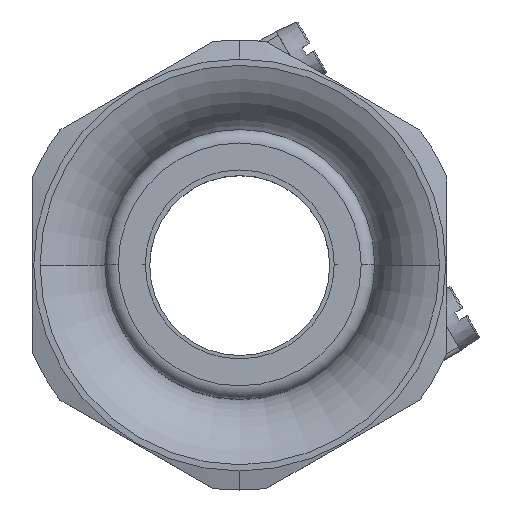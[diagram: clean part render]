
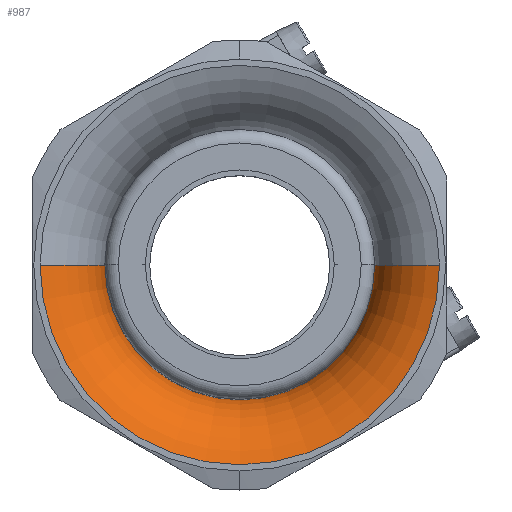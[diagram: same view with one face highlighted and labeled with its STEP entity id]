
A CAD part, top view. The second image highlights one B-rep face of the part: STEP entity #987.
In plain terms, the highlighted toroidal (fillet/blend) face has major radius 25 mm and minor radius 10 mm.
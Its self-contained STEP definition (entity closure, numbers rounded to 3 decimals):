
#706 = EDGE_LOOP ( 'NONE', ( #1054, #1088, #1085, #1093 ) ) ;
#936 = EDGE_CURVE ( 'NONE', #1162, #1161, #3243, .T. ) ;
#987 = ADVANCED_FACE ( 'NONE', ( #3339 ), #3338, .T. ) ;
#1054 = ORIENTED_EDGE ( 'NONE', *, *, #1259, .F. ) ;
#1065 = EDGE_CURVE ( 'NONE', #1347, #1340, #3474, .T. ) ;
#1085 = ORIENTED_EDGE ( 'NONE', *, *, #1252, .T. ) ;
#1088 = ORIENTED_EDGE ( 'NONE', *, *, #936, .T. ) ;
#1093 = ORIENTED_EDGE ( 'NONE', *, *, #1065, .F. ) ;
#1161 = VERTEX_POINT ( 'NONE', #3668 ) ;
#1162 = VERTEX_POINT ( 'NONE', #3667 ) ;
#1252 = EDGE_CURVE ( 'NONE', #1161, #1340, #3855, .T. ) ;
#1259 = EDGE_CURVE ( 'NONE', #1162, #1347, #3841, .T. ) ;
#1340 = VERTEX_POINT ( 'NONE', #4001 ) ;
#1347 = VERTEX_POINT ( 'NONE', #3989 ) ;
#3239 = DIRECTION ( 'NONE',  ( 1., 0., 0. ) ) ;
#3240 = DIRECTION ( 'NONE',  ( 0., 0., 1. ) ) ;
#3241 = CARTESIAN_POINT ( 'NONE',  ( 0., 0., 26.5 ) ) ;
#3242 = AXIS2_PLACEMENT_3D ( 'NONE', #3241, #3240, #3239 ) ;
#3243 = CIRCLE ( 'NONE', #3242, 22.2 ) ;
#3334 = DIRECTION ( 'NONE',  ( 1., 0., 0. ) ) ;
#3335 = DIRECTION ( 'NONE',  ( 0., 0., 1. ) ) ;
#3336 = CARTESIAN_POINT ( 'NONE',  ( 0., 0., 16.9 ) ) ;
#3337 = AXIS2_PLACEMENT_3D ( 'NONE', #3336, #3335, #3334 ) ;
#3338 = TOROIDAL_SURFACE ( 'NONE', #3337, 25., 10. ) ;
#3339 = FACE_OUTER_BOUND ( 'NONE', #706, .T. ) ;
#3470 = DIRECTION ( 'NONE',  ( 1., 0., 0. ) ) ;
#3471 = DIRECTION ( 'NONE',  ( 0., 0., 1. ) ) ;
#3472 = CARTESIAN_POINT ( 'NONE',  ( 0., 0., 16.9 ) ) ;
#3473 = AXIS2_PLACEMENT_3D ( 'NONE', #3472, #3471, #3470 ) ;
#3474 = CIRCLE ( 'NONE', #3473, 15. ) ;
#3667 = CARTESIAN_POINT ( 'NONE',  ( -22.2, 0., 26.5 ) ) ;
#3668 = CARTESIAN_POINT ( 'NONE',  ( 22.2, 0., 26.5 ) ) ;
#3837 = DIRECTION ( 'NONE',  ( -1., 0., 0. ) ) ;
#3838 = DIRECTION ( 'NONE',  ( 0., 1., 0. ) ) ;
#3839 = CARTESIAN_POINT ( 'NONE',  ( -25., 0., 16.9 ) ) ;
#3840 = AXIS2_PLACEMENT_3D ( 'NONE', #3839, #3838, #3837 ) ;
#3841 = CIRCLE ( 'NONE', #3840, 10. ) ;
#3851 = DIRECTION ( 'NONE',  ( 0., 0., -1. ) ) ;
#3852 = DIRECTION ( 'NONE',  ( 0., -1., 0. ) ) ;
#3853 = CARTESIAN_POINT ( 'NONE',  ( 25., 0., 16.9 ) ) ;
#3854 = AXIS2_PLACEMENT_3D ( 'NONE', #3853, #3852, #3851 ) ;
#3855 = CIRCLE ( 'NONE', #3854, 10. ) ;
#3989 = CARTESIAN_POINT ( 'NONE',  ( -15., 0., 16.9 ) ) ;
#4001 = CARTESIAN_POINT ( 'NONE',  ( 15., 0., 16.9 ) ) ;
